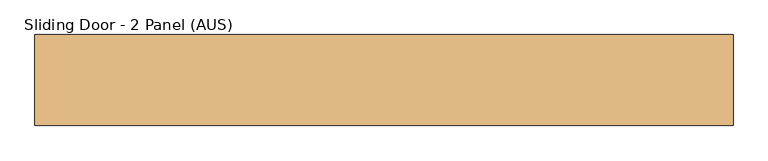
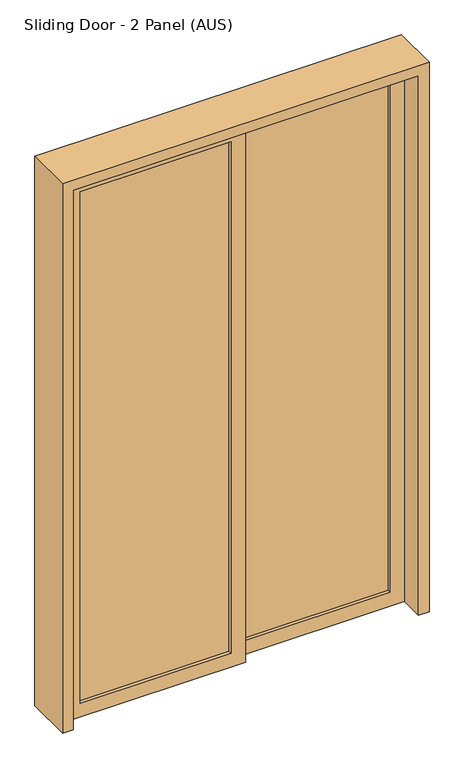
"""IFC4 building model written with IfcOpenShell, lengths in millimetres: door geometry, Sliding Door - 2 Panel (AUS) : elavator door."""

from ifc_helpers import new_model, si_unit, frame, origin, place, context, project, spatial, polyline, outline, extrude, source, transform, mapped, element, save


def sliding_door_2_panel_aus_f73f6a40(model_context):
    return source(origin(), model_context, "Body", "SweptSolid", [
        extrude(outline(polyline([(680.7580012, 26.6666667), (680.7580012, 13.3333333), (113.2580012, 13.3333333), (113.2580012, 26.6666667), (680.7580012, 26.6666667)])), frame((0.0, 0.0, 55.0), z_axis=(0.0, 0.0, 1.0), x_axis=(1.0, 0.0, 0.0)), (0.0, 0.0, 1.0), 2033.0),
        extrude(outline(polyline([(0.0, 735.7580012), (2143.0, 735.7580012), (2143.0, 58.2580012), (0.0, 58.2580012), (0.0, 735.7580012)]), holes=[polyline([(55.0, 680.7580012), (55.0, 113.2580012), (2088.0, 113.2580012), (2088.0, 680.7580012), (55.0, 680.7580012)])]), frame((0.0, 0.0, 0.0), z_axis=(0.0, 1.0, 0.0), x_axis=(0.0, 0.0, 1.0)), (0.0, 0.0, 1.0), 40.0),
        extrude(outline(polyline([(58.2580012, -13.3333333), (58.2580012, -26.6666667), (-509.2419988, -26.6666667), (-509.2419988, -13.3333333), (58.2580012, -13.3333333)])), frame((0.0, 0.0, 55.0), z_axis=(0.0, 0.0, 1.0), x_axis=(1.0, 0.0, 0.0)), (0.0, 0.0, 1.0), 2033.0),
        extrude(outline(polyline([(0.0, 113.2580012), (2143.0, 113.2580012), (2143.0, -564.2419988), (0.0, -564.2419988), (0.0, 113.2580012)]), holes=[polyline([(55.0, 58.2580012), (55.0, -509.2419988), (2088.0, -509.2419988), (2088.0, 58.2580012), (55.0, 58.2580012)])]), frame((0.0, -40.0, 0.0), z_axis=(0.0, 1.0, 0.0), x_axis=(0.0, 0.0, 1.0)), (0.0, 0.0, 1.0), 40.0),
        extrude(outline(polyline([(0.0, -604.2419988), (0.0, -564.2419988), (2143.0, -564.2419988), (2143.0, 735.7580012), (0.0, 735.7580012), (0.0, 775.7580012), (2183.0, 775.7580012), (2183.0, -604.2419988), (0.0, -604.2419988)])), frame((0.0, -90.0, 0.0), z_axis=(0.0, 1.0, 0.0), x_axis=(0.0, 0.0, 1.0)), (0.0, 0.0, 1.0), 180.0),
    ])


if __name__ == "__main__":
    model = new_model("IFC4")
    model_context = context("Model", 3, world=origin())
    ifc_project = project(units=[si_unit("LENGTHUNIT", "METRE", prefix="MILLI")], contexts=[model_context])
    site = spatial("IfcSite", under=ifc_project)
    building = spatial("IfcBuilding", under=site)
    placement = place(None, origin())
    sliding_door_2_panel_aus_shape = sliding_door_2_panel_aus_f73f6a40(model_context)
    element("IfcDoor", 1, ObjectType="Sliding Door - 2 Panel (AUS) : elavator door", at=placement, inside=building, context=model_context, shape_type="MappedRepresentation", body=[
        mapped(sliding_door_2_panel_aus_shape, transform((0.0, 0.0, 0.0), x_axis=(1.0, 0.0, 0.0), y_axis=(0.0, 1.0, 0.0), z_axis=(0.0, 0.0, 1.0))),
    ])
    save(model, "model.ifc")
